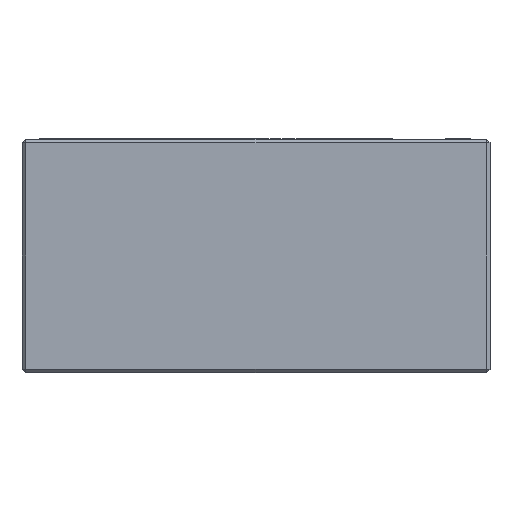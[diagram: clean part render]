
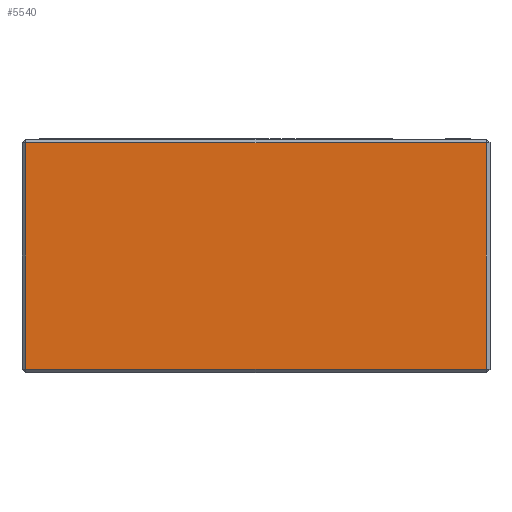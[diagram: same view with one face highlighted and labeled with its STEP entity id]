
A CAD part, front view. The second image highlights one B-rep face of the part: STEP entity #5540.
In plain terms, the highlighted planar face has unit normal (0, -1, 0).
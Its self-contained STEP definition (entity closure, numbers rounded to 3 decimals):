
#330 = DIRECTION ( 'NONE',  ( 1., 0., 0. ) ) ;
#708 = LINE ( 'NONE', #10571, #1222 ) ;
#1003 = ORIENTED_EDGE ( 'NONE', *, *, #5025, .T. ) ;
#1222 = VECTOR ( 'NONE', #8296, 1000. ) ;
#1679 = VERTEX_POINT ( 'NONE', #10607 ) ;
#1704 = EDGE_CURVE ( 'NONE', #6421, #5602, #7977, .T. ) ;
#1729 = ORIENTED_EDGE ( 'NONE', *, *, #2794, .T. ) ;
#2228 = ORIENTED_EDGE ( 'NONE', *, *, #1704, .T. ) ;
#2308 = DIRECTION ( 'NONE',  ( -1., 0., 0. ) ) ;
#2385 = CARTESIAN_POINT ( 'NONE',  ( 60., -30., -14.5 ) ) ;
#2631 = EDGE_LOOP ( 'NONE', ( #6265, #1003, #2228, #1729 ) ) ;
#2794 = EDGE_CURVE ( 'NONE', #5602, #1679, #708, .T. ) ;
#2879 = CARTESIAN_POINT ( 'NONE',  ( 0.5, -30., -15. ) ) ;
#3275 = FACE_OUTER_BOUND ( 'NONE', #2631, .T. ) ;
#3473 = PLANE ( 'NONE',  #5623 ) ;
#4008 = CARTESIAN_POINT ( 'NONE',  ( 0.5, -30., 14.5 ) ) ;
#4499 = LINE ( 'NONE', #2879, #6453 ) ;
#5025 = EDGE_CURVE ( 'NONE', #9639, #6421, #4499, .T. ) ;
#5540 = ADVANCED_FACE ( 'NONE', ( #3275 ), #3473, .F. ) ;
#5602 = VERTEX_POINT ( 'NONE', #7213 ) ;
#5623 = AXIS2_PLACEMENT_3D ( 'NONE', #8525, #10287, #5771 ) ;
#5771 = DIRECTION ( 'NONE',  ( 0., 0., 1. ) ) ;
#5946 = EDGE_CURVE ( 'NONE', #1679, #9639, #9578, .T. ) ;
#6265 = ORIENTED_EDGE ( 'NONE', *, *, #5946, .T. ) ;
#6421 = VERTEX_POINT ( 'NONE', #9356 ) ;
#6453 = VECTOR ( 'NONE', #6564, 1000. ) ;
#6564 = DIRECTION ( 'NONE',  ( 0., 0., -1. ) ) ;
#7206 = VECTOR ( 'NONE', #2308, 1000. ) ;
#7213 = CARTESIAN_POINT ( 'NONE',  ( 59.5, -30., -14.5 ) ) ;
#7947 = CARTESIAN_POINT ( 'NONE',  ( 60., -30., 14.5 ) ) ;
#7977 = LINE ( 'NONE', #2385, #10060 ) ;
#8296 = DIRECTION ( 'NONE',  ( 0., 0., 1. ) ) ;
#8525 = CARTESIAN_POINT ( 'NONE',  ( 60., -30., 15. ) ) ;
#9356 = CARTESIAN_POINT ( 'NONE',  ( 0.5, -30., -14.5 ) ) ;
#9578 = LINE ( 'NONE', #7947, #7206 ) ;
#9639 = VERTEX_POINT ( 'NONE', #4008 ) ;
#10060 = VECTOR ( 'NONE', #330, 1000. ) ;
#10287 = DIRECTION ( 'NONE',  ( 0., 1., 0. ) ) ;
#10571 = CARTESIAN_POINT ( 'NONE',  ( 59.5, -30., 15. ) ) ;
#10607 = CARTESIAN_POINT ( 'NONE',  ( 59.5, -30., 14.5 ) ) ;
